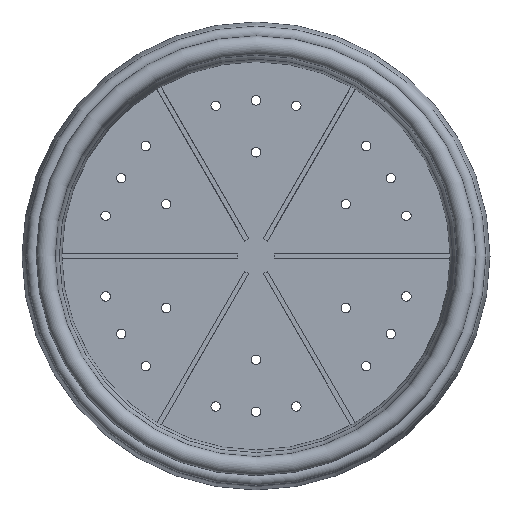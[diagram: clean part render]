
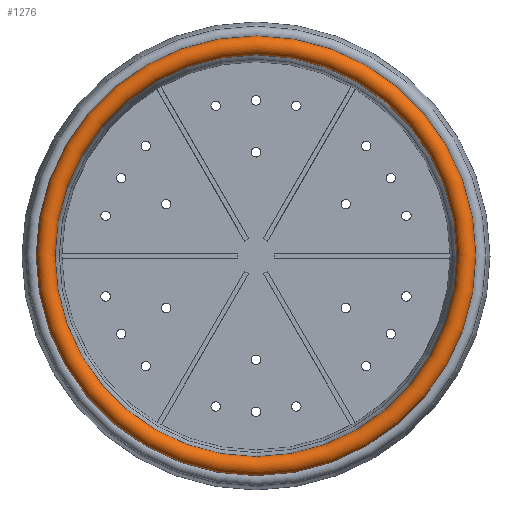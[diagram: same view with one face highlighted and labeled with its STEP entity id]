
A CAD part, top view. The second image highlights one B-rep face of the part: STEP entity #1276.
In plain terms, the highlighted toroidal (fillet/blend) face has major radius 111.5 mm and minor radius 5 mm.
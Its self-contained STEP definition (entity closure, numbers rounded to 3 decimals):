
#18=TOROIDAL_SURFACE('',#1441,111.5,5.);
#154=FACE_OUTER_BOUND('',#245,.T.);
#245=EDGE_LOOP('',(#1097,#1098,#1099,#1100));
#522=CIRCLE('',#1440,115.33);
#523=CIRCLE('',#1442,106.5);
#524=CIRCLE('',#1443,5.);
#643=VERTEX_POINT('',#2201);
#644=VERTEX_POINT('',#2205);
#810=EDGE_CURVE('',#643,#643,#522,.T.);
#812=EDGE_CURVE('',#644,#644,#523,.T.);
#813=EDGE_CURVE('',#644,#643,#524,.T.);
#1097=ORIENTED_EDGE('',*,*,#812,.F.);
#1098=ORIENTED_EDGE('',*,*,#813,.T.);
#1099=ORIENTED_EDGE('',*,*,#810,.T.);
#1100=ORIENTED_EDGE('',*,*,#813,.F.);
#1276=ADVANCED_FACE('',(#154),#18,.T.);
#1440=AXIS2_PLACEMENT_3D('',#2202,#1821,#1822);
#1441=AXIS2_PLACEMENT_3D('',#2204,#1824,#1825);
#1442=AXIS2_PLACEMENT_3D('',#2206,#1826,#1827);
#1443=AXIS2_PLACEMENT_3D('',#2207,#1828,#1829);
#1821=DIRECTION('center_axis',(0.,0.,1.));
#1822=DIRECTION('ref_axis',(1.,0.,0.));
#1824=DIRECTION('center_axis',(0.,0.,1.));
#1825=DIRECTION('ref_axis',(1.,0.,0.));
#1826=DIRECTION('center_axis',(0.,0.,1.));
#1827=DIRECTION('ref_axis',(1.,0.,0.));
#1828=DIRECTION('center_axis',(0.,-1.,0.));
#1829=DIRECTION('ref_axis',(-1.,0.,0.));
#2201=CARTESIAN_POINT('',(-115.33,0.,91.786));
#2202=CARTESIAN_POINT('Origin',(0.,0.,91.786));
#2204=CARTESIAN_POINT('Origin',(0.,0.,95.));
#2205=CARTESIAN_POINT('',(-106.5,0.,95.));
#2206=CARTESIAN_POINT('Origin',(0.,0.,95.));
#2207=CARTESIAN_POINT('Origin',(-111.5,0.,95.));
